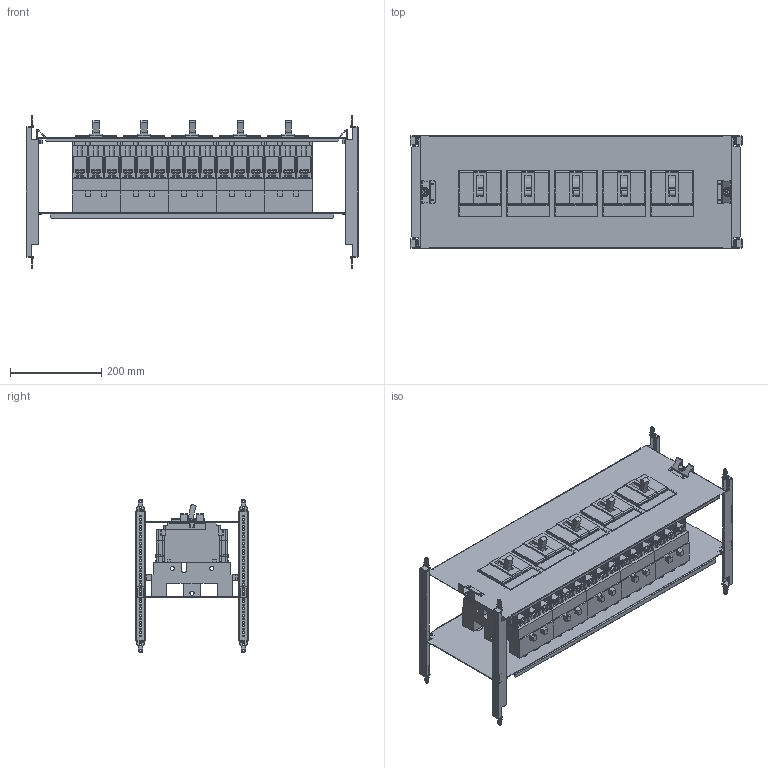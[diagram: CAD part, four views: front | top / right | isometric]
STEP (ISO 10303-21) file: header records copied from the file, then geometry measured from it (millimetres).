
FILE_DESCRIPTION(('CAx-IF Rec.Pracs.---Model Styling and Organization---1.2---2011-12-15','CAx-IF Rec.Pracs.---Geometric and Assembly Validation Properties---4.1---2014-06-16','CAx-IF Rec.Pracs.---PMI Polyline Presentation---2.0---2013-05-24'),'2;1');
FILE_NAME('R5PKIB7V82213 (P).stp','2021-07-29T03:22:09+03:00',(''),(''),'STEP Interface 4.4 by CT CoreTechnologie','3D_Evolution4.4 by CT CoreTechnologie','');
FILE_SCHEMA(('AUTOMOTIVE_DESIGN { 1 0 10303 214 1 1 1 1 }'));
Length unit declared in the file: millimetre
Products named in the file (1): R5PKIB7V82213 (P)
Bounding box: 726 x 248 x 335 mm (x, y, z)
Surface area: 2159088.7 mm2 (no closed solid volume)
Topology: 0 solids, 77 shells, 5148 faces, 15057 edges, 10121 vertices
Faces by surface type: plane 4074, cylinder 897, bspline 177
Entity records: 171480 total; most frequent: CARTESIAN_POINT 32399, ORIENTED_EDGE 30048, DIRECTION 26933, EDGE_CURVE 15039, VECTOR 12909, LINE 12909, VERTEX_POINT 10206, AXIS2_PLACEMENT_3D 7012
